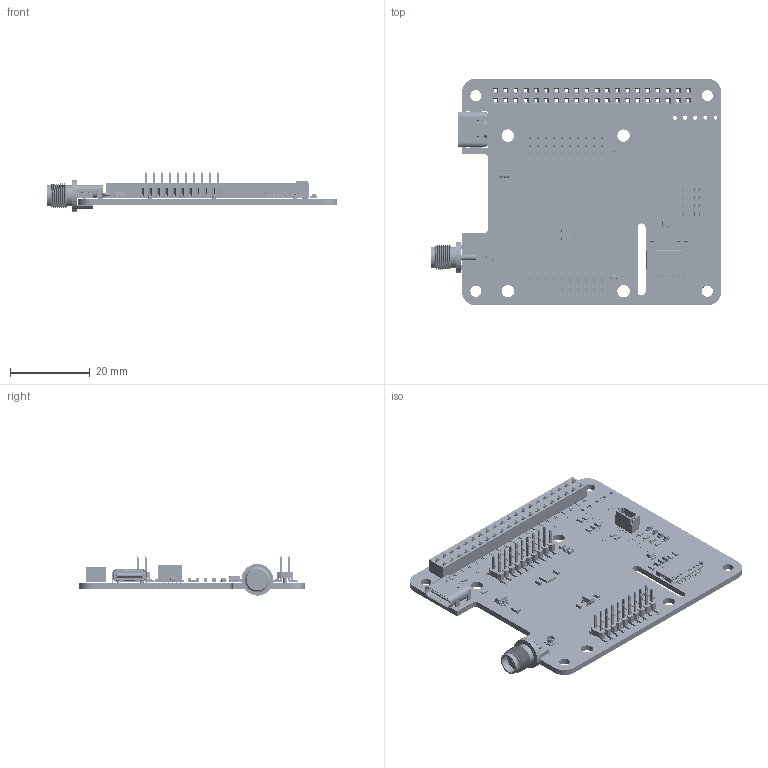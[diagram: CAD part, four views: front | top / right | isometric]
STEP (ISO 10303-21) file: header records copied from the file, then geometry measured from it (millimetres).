
FILE_DESCRIPTION(('KiCad electronic assembly'),'2;1');
FILE_NAME('SparkFun_GNSS_Flex_pHAT.step','2025-04-22T11:54:26',('Pcbnew' ),('Kicad'),'Open CASCADE STEP processor 7.8', 'KiCad to STEP converter','Unknown');
FILE_SCHEMA(('AUTOMOTIVE_DESIGN { 1 0 10303 214 1 1 1 1 }'));
Length unit declared in the file: millimetre
Products named in the file (45): SparkFun_GNSS_Flex_pHAT 1; R_0603_1608Metric; C_0603_1608Metric; LED_0603_1608Metric_Blue; 2x10_2.0mm_Header_SMD_Pegs-1.0mm_22817; 05XGHXPW65_4; JX_PH20_2XNP_H20_DZ1X2_2; LED_0603_1608Metric_Yellow; SMA-Edge; Surface 6; Surface 5; Surface 4; Surface 3; Surface 2; Surface 1; microSD_Friction_Fit-Empty; 83721C7F-32BC-402F-9845-702A87134162; SOT-23-6; Raspberry_Pi_Passthrough_Header; Qwiic-Vertical; LED_0603_1608Metric_Red; SOT-23-5; U.FL; DFN-8_3x3mm_P0.65mm; LDF; CPD; USB-C_16; USB4105GFA_USB4105GFA; LED_0603_1608Metric_White; SOT-353_SC-70-5; CHIP_100M4T_WAL; SparkFun_GNSS_Flex_pHAT_pad; SparkFun_GNSS_Flex_pHAT_silkscreen; SparkFun_GNSS_Flex_pHAT_soldermask; SparkFun_GNSS_Flex_pHAT_PCB
Assembly tree (91 placements, depth 3):
  SparkFun_GNSS_Flex_pHAT 1
    R_0603_1608Metric  x14
    C_0603_1608Metric  x15
    LED_0603_1608Metric_Blue
    2x10_2.0mm_Header_SMD_Pegs-1.0mm_22817  x2
      05XGHXPW65_4
      JX_PH20_2XNP_H20_DZ1X2_2
    LED_0603_1608Metric_Yellow
    SMA-Edge
      Surface 6
      Surface 5
      Surface 4
      Surface 3
      Surface 2
      Surface 1
    microSD_Friction_Fit-Empty
      83721C7F-32BC-402F-9845-702A87134162
      83721C7F-32BC-402F-9845-702A87134162
      83721C7F-32BC-402F-9845-702A87134162
      83721C7F-32BC-402F-9845-702A87134162
      83721C7F-32BC-402F-9845-702A87134162
      83721C7F-32BC-402F-9845-702A87134162
      83721C7F-32BC-402F-9845-702A87134162
      83721C7F-32BC-402F-9845-702A87134162
      83721C7F-32BC-402F-9845-702A87134162
      83721C7F-32BC-402F-9845-702A87134162
      83721C7F-32BC-402F-9845-702A87134162
    SOT-23-6
    Raspberry_Pi_Passthrough_Header
    Qwiic-Vertical
    LED_0603_1608Metric_Red
    SOT-23-5
    U.FL
    DFN-8_3x3mm_P0.65mm
      LDF
      CPD
    USB-C_16
      USB4105GFA_USB4105GFA
    LED_0603_1608Metric_White
    SOT-353_SC-70-5
    CHIP_100M4T_WAL
    SparkFun_GNSS_Flex_pHAT_pad
    SparkFun_GNSS_Flex_pHAT_silkscreen
    SparkFun_GNSS_Flex_pHAT_soldermask
    SparkFun_GNSS_Flex_pHAT_PCB
Bounding box: 72.85 x 56.75 x 9.81 mm (x, y, z)
Volume: 6546.2 mm3; surface area: 19616.6 mm2
Topology: 483 solids, 718 shells, 8300 faces, 27414 edges, 20365 vertices
Faces by surface type: plane 6515, cylinder 1529, bspline 147, cone 78, torus 18, revolution 8, sphere 5
Full cylindrical faces by diameter (mm): 0.255 x62, 0.4 x1, 0.5 x4, 0.65 x2, 0.966 x15, 1 x4, 1.016 x11, 1.02 x40, 1.2 x4, 1.25 x31, 1.27 x1, 1.3 x1, 1.8 x3, 1.88 x10, 1.92 x1, 2 x2, 2.75 x4, 3.1 x4, 4.072 x1, 4.572 x1, 5.35 x2, 7.93 x1
Entity records: 272327 total; most frequent: CARTESIAN_POINT 51007, DIRECTION 40232, ORIENTED_EDGE 38187, EDGE_CURVE 23083, LINE 18136, VECTOR 18136, VERTEX_POINT 17647, AXIS2_PLACEMENT_3D 11046
